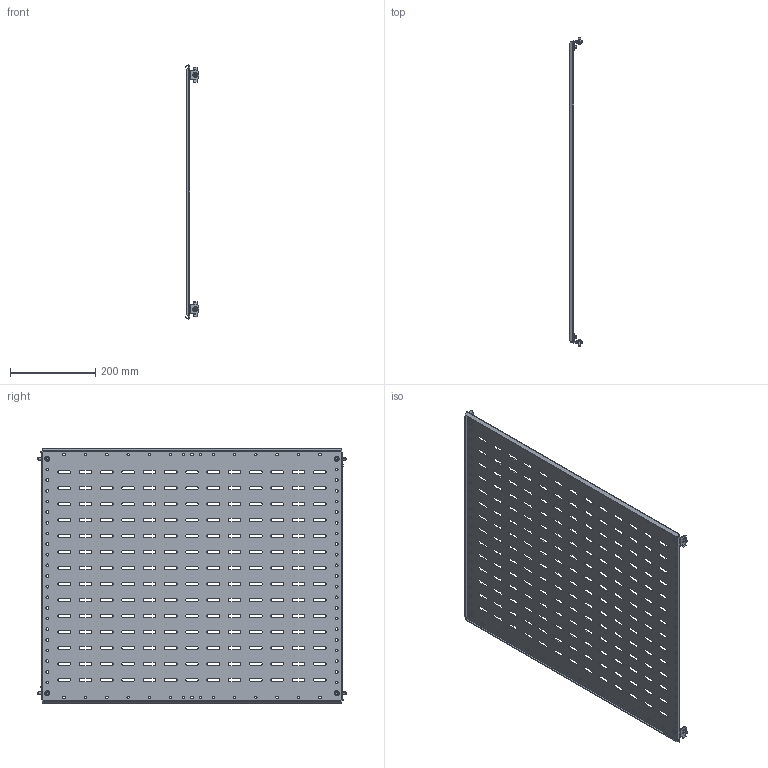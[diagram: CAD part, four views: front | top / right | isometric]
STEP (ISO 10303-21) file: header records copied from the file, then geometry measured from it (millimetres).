
FILE_DESCRIPTION (( 'STEP AP214' ), '1' );
FILE_NAME ('FO-00-SWF-060-080 Ïåðåãîðîäêà ñåêöèîíèðîâàíèÿ çàäíÿÿ 600õ800 ìì.STEP', '2025-08-12T09:24:03', ( '' ), ( '' ), 'SwSTEP 2.0', 'SolidWorks 2023', '' );
FILE_SCHEMA (( 'AUTOMOTIVE_DESIGN' ));
Length unit declared in the file: millimetre
Products named in the file (1): FO-00-SWF-060-080 Перегородка секционирования задняя 600х800 мм
Bounding box: 30.52 x 724 x 597.66 mm (x, y, z)
Volume: 608760.5 mm3; surface area: 828685.6 mm2
Topology: 1 solids, 5 shells, 1446 faces, 4180 edges, 2764 vertices
Faces by surface type: cylinder 866, plane 524, torus 24, cone 24, sphere 8
Entity records: 49347 total; most frequent: DIRECTION 8754, CARTESIAN_POINT 8659, ORIENTED_EDGE 8360, EDGE_CURVE 4180, AXIS2_PLACEMENT_3D 3195, VERTEX_POINT 2764, LINE 2364, VECTOR 2364
